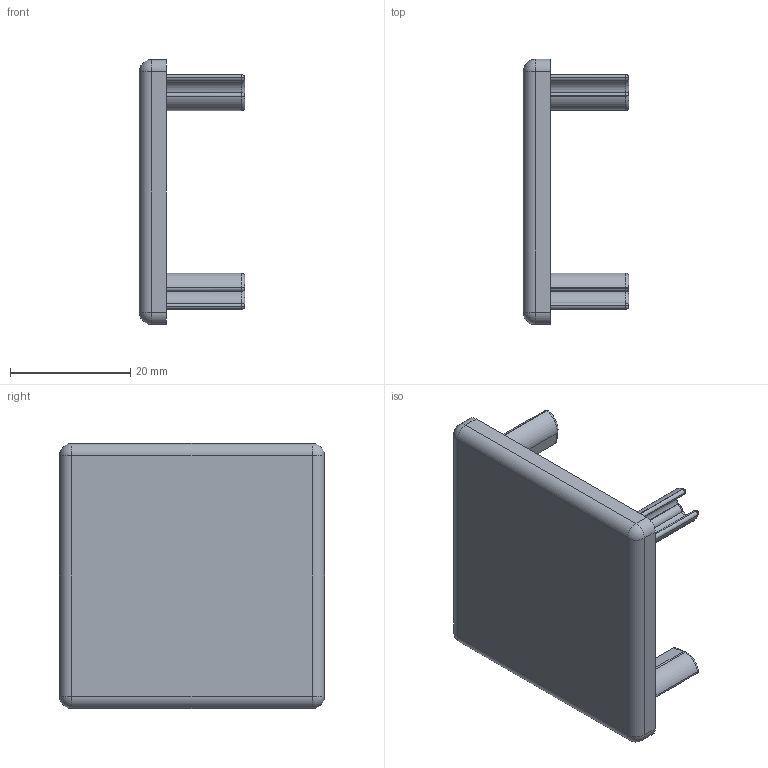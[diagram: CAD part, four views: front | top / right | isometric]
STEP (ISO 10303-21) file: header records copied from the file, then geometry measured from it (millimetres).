
FILE_DESCRIPTION (( 'STEP AP214' ), '1' );
FILE_NAME ('FBEC 44.step', '2017-04-05T08:00:56', ( '' ), ( '' ), 'SwSTEP 2.0', 'SolidWorks 2015', '' );
FILE_SCHEMA (( 'AUTOMOTIVE_DESIGN' ));
Length unit declared in the file: millimetre
Products named in the file (1): FBEC 44
Bounding box: 17.5 x 44 x 44 mm (x, y, z)
Volume: 5492.1 mm3; surface area: 6472.7 mm2
Topology: 1 solids, 1 shells, 197 faces, 468 edges, 262 vertices
Faces by surface type: cylinder 76, torus 66, plane 31, sphere 24
Entity records: 5652 total; most frequent: DIRECTION 1092, CARTESIAN_POINT 1062, ORIENTED_EDGE 896, AXIS2_PLACEMENT_3D 472, EDGE_CURVE 448, CIRCLE 274, VERTEX_POINT 258, EDGE_LOOP 202
